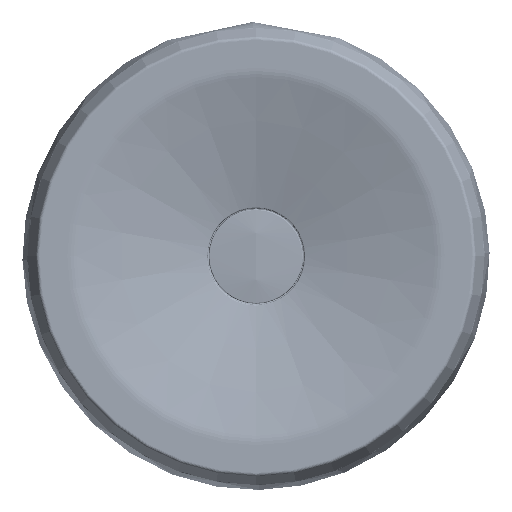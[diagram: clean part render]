
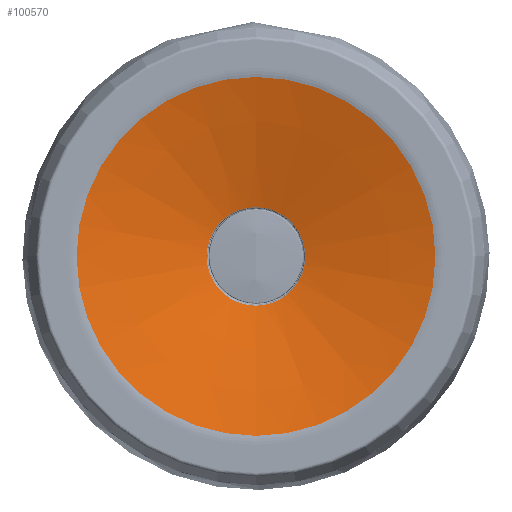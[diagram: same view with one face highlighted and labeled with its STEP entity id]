
A CAD part, front view. The second image highlights one B-rep face of the part: STEP entity #100570.
In plain terms, the highlighted conical face has half-angle 75.533 degrees and reference radius 108.451 mm.
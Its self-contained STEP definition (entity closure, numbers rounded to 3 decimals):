
#9033=CONICAL_SURFACE('',#107353,108.451,1.318);
#12127=FACE_OUTER_BOUND('',#17643,.T.);
#17643=EDGE_LOOP('',(#69985,#69986,#69987,#69988,#69989,#69990));
#23671=LINE('',#144833,#32324);
#32324=VECTOR('',#117073,108.451);
#41044=CIRCLE('',#107350,46.75);
#41045=CIRCLE('',#107351,46.75);
#41047=CIRCLE('',#107354,170.152);
#41048=CIRCLE('',#107355,170.152);
#44921=VERTEX_POINT('',#144826);
#44922=VERTEX_POINT('',#144827);
#44923=VERTEX_POINT('',#144832);
#44924=VERTEX_POINT('',#144834);
#54851=EDGE_CURVE('',#44921,#44922,#41044,.T.);
#54852=EDGE_CURVE('',#44922,#44921,#41045,.T.);
#54854=EDGE_CURVE('',#44922,#44923,#23671,.T.);
#54855=EDGE_CURVE('',#44924,#44923,#41047,.T.);
#54856=EDGE_CURVE('',#44923,#44924,#41048,.T.);
#69985=ORIENTED_EDGE('',*,*,#54851,.T.);
#69986=ORIENTED_EDGE('',*,*,#54854,.T.);
#69987=ORIENTED_EDGE('',*,*,#54855,.F.);
#69988=ORIENTED_EDGE('',*,*,#54856,.F.);
#69989=ORIENTED_EDGE('',*,*,#54854,.F.);
#69990=ORIENTED_EDGE('',*,*,#54852,.T.);
#100570=ADVANCED_FACE('',(#12127),#9033,.F.);
#107350=AXIS2_PLACEMENT_3D('',#144828,#117065,#117066);
#107351=AXIS2_PLACEMENT_3D('',#144829,#117067,#117068);
#107353=AXIS2_PLACEMENT_3D('',#144831,#117071,#117072);
#107354=AXIS2_PLACEMENT_3D('',#144835,#117074,#117075);
#107355=AXIS2_PLACEMENT_3D('',#144836,#117076,#117077);
#117065=DIRECTION('center_axis',(0.,1.,0.));
#117066=DIRECTION('ref_axis',(1.,0.,0.));
#117067=DIRECTION('center_axis',(0.,1.,0.));
#117068=DIRECTION('ref_axis',(1.,0.,0.));
#117071=DIRECTION('center_axis',(0.,-1.,0.));
#117072=DIRECTION('ref_axis',(0.,0.,1.));
#117073=DIRECTION('',(0.,-0.25,-0.968));
#117074=DIRECTION('center_axis',(0.,1.,0.));
#117075=DIRECTION('ref_axis',(1.,0.,0.));
#117076=DIRECTION('center_axis',(0.,1.,0.));
#117077=DIRECTION('ref_axis',(1.,0.,0.));
#144826=CARTESIAN_POINT('',(0.,32.951,46.75));
#144827=CARTESIAN_POINT('',(0.,32.951,-46.75));
#144828=CARTESIAN_POINT('Origin',(0.,32.951,0.));
#144829=CARTESIAN_POINT('Origin',(0.,32.951,0.));
#144831=CARTESIAN_POINT('Origin',(0.,17.032,0.));
#144832=CARTESIAN_POINT('',(0.,1.112,-170.152));
#144833=CARTESIAN_POINT('',(0.,17.032,-108.451));
#144834=CARTESIAN_POINT('',(0.,1.112,170.152));
#144835=CARTESIAN_POINT('Origin',(0.,1.112,0.));
#144836=CARTESIAN_POINT('Origin',(0.,1.112,0.));
